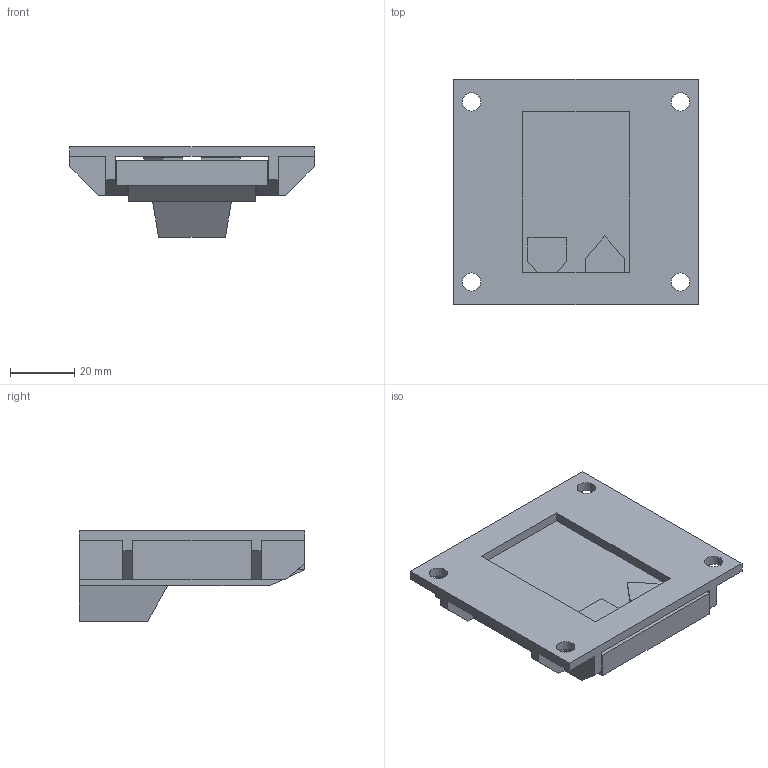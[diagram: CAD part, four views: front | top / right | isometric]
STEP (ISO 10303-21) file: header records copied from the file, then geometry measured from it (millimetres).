
FILE_DESCRIPTION( ( 'STEP AP214' ), '1' );
FILE_NAME( 'C:/Users/KOSH/Desktop/New folder/2021/Actiforce/Export/9309936.stp', '2021-12-03T09:46:12', ( '' ), ( '' ), ' ', 'PARTsolutions', ' ' );
FILE_SCHEMA( ( 'AUTOMOTIVE_DESIGN { 1 0 10303 214 1 1 1 1 }' ) );
Length unit declared in the file: millimetre
Products named in the file (1): _9309936
Bounding box: 76 x 70 x 28.1 mm (x, y, z)
Volume: 62264.5 mm3; surface area: 23514.6 mm2
Topology: 1 solids, 1 shells, 84 faces, 235 edges, 156 vertices
Faces by surface type: plane 80, cylinder 4
Full cylindrical faces by diameter (mm): 5.655 x4
Entity records: 3343 total; most frequent: CARTESIAN_POINT 472, ORIENTED_EDGE 462, DIRECTION 409, EDGE_CURVE 231, LINE 223, VECTOR 223, VERTEX_POINT 156, EDGE_LOOP 103
